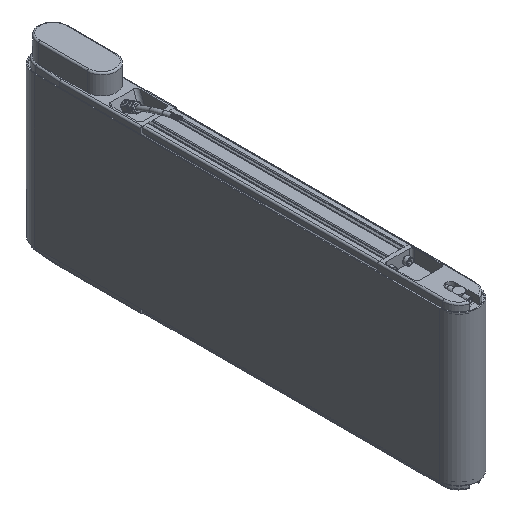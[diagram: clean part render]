
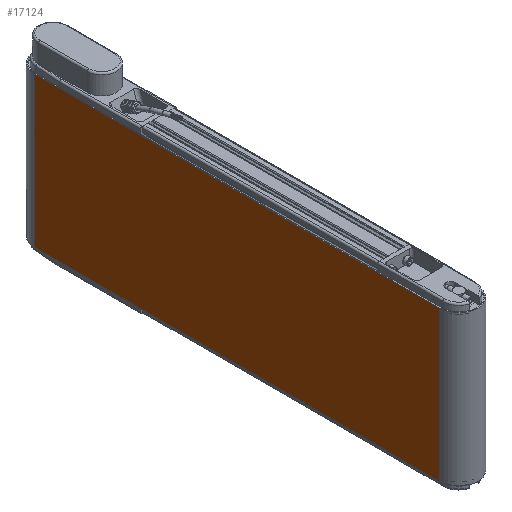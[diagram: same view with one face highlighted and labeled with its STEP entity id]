
A CAD part, isometric view. The second image highlights one B-rep face of the part: STEP entity #17124.
In plain terms, the highlighted planar face has unit normal (-1, 0, 0).
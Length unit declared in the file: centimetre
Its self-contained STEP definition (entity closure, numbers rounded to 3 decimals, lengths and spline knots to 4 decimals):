
#471=PLANE('',#18398);
#1347=FACE_OUTER_BOUND('',#2310,.T.);
#2310=EDGE_LOOP('',(#12215,#12216,#12217,#12218));
#4259=LINE('',#26469,#5600);
#4274=LINE('',#26502,#5615);
#4275=LINE('',#26505,#5616);
#4276=LINE('',#26506,#5617);
#5600=VECTOR('',#21072,1.);
#5615=VECTOR('',#21095,1.);
#5616=VECTOR('',#21098,1.);
#5617=VECTOR('',#21099,1.);
#7117=VERTEX_POINT('',#26463);
#7119=VERTEX_POINT('',#26467);
#7133=VERTEX_POINT('',#26500);
#7134=VERTEX_POINT('',#26504);
#9023=EDGE_CURVE('',#7117,#7119,#4259,.T.);
#9040=EDGE_CURVE('',#7119,#7133,#4274,.T.);
#9041=EDGE_CURVE('',#7133,#7134,#4275,.T.);
#9042=EDGE_CURVE('',#7117,#7134,#4276,.T.);
#12215=ORIENTED_EDGE('',*,*,#9023,.T.);
#12216=ORIENTED_EDGE('',*,*,#9040,.T.);
#12217=ORIENTED_EDGE('',*,*,#9041,.T.);
#12218=ORIENTED_EDGE('',*,*,#9042,.F.);
#17124=ADVANCED_FACE('',(#1347),#471,.T.);
#18398=AXIS2_PLACEMENT_3D('',#26503,#21096,#21097);
#21072=DIRECTION('',(0.,-1.,0.));
#21095=DIRECTION('',(0.,0.,1.));
#21096=DIRECTION('center_axis',(-1.,0.,0.));
#21097=DIRECTION('ref_axis',(0.,0.,
1.));
#21098=DIRECTION('',(0.,1.,0.));
#21099=DIRECTION('',(0.,0.,1.));
#26463=CARTESIAN_POINT('',(-2.33,13.,-9.25));
#26467=CARTESIAN_POINT('',(-2.33,-37.,-9.25));
#26469=CARTESIAN_POINT('',(-2.33,13.,-9.25));
#26500=CARTESIAN_POINT('',(-2.33,-37.,9.25));
#26502=CARTESIAN_POINT('',(-2.33,-37.,0.));
#26503=CARTESIAN_POINT('Origin',(-2.33,13.,0.));
#26504=CARTESIAN_POINT('',(-2.33,13.,9.25));
#26505=CARTESIAN_POINT('',(-2.33,13.,9.25));
#26506=CARTESIAN_POINT('',(-2.33,13.,0.));
